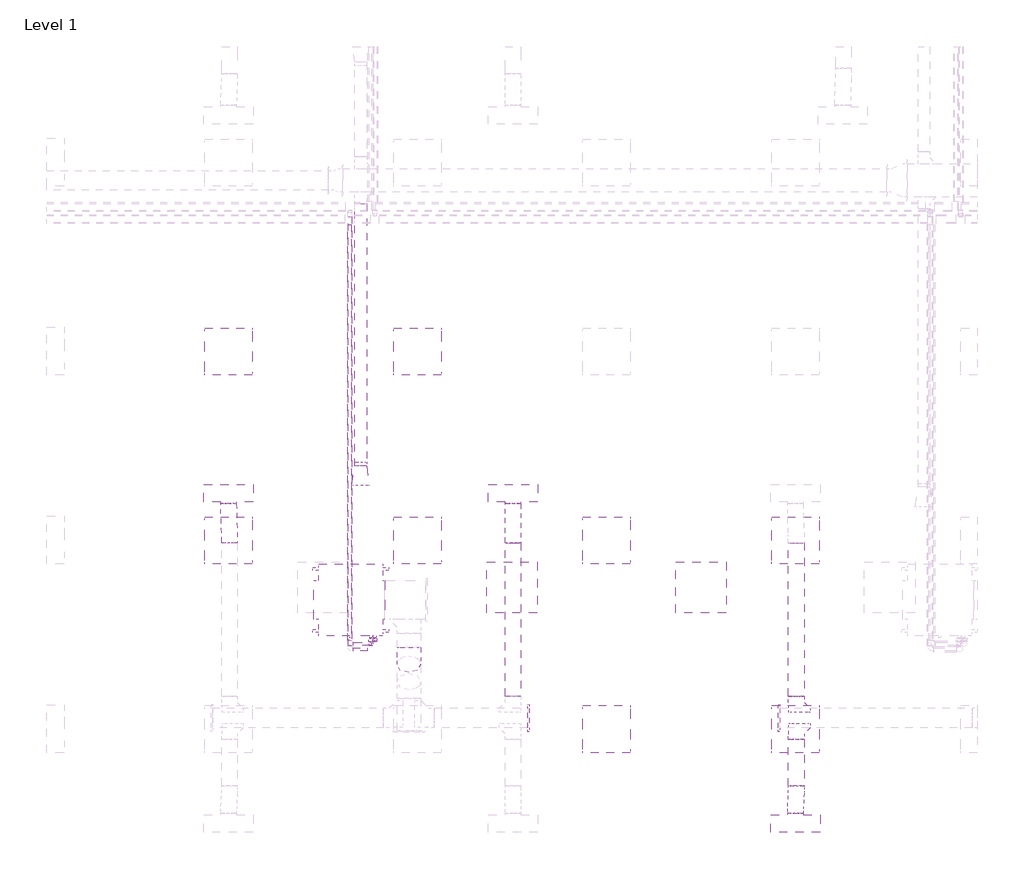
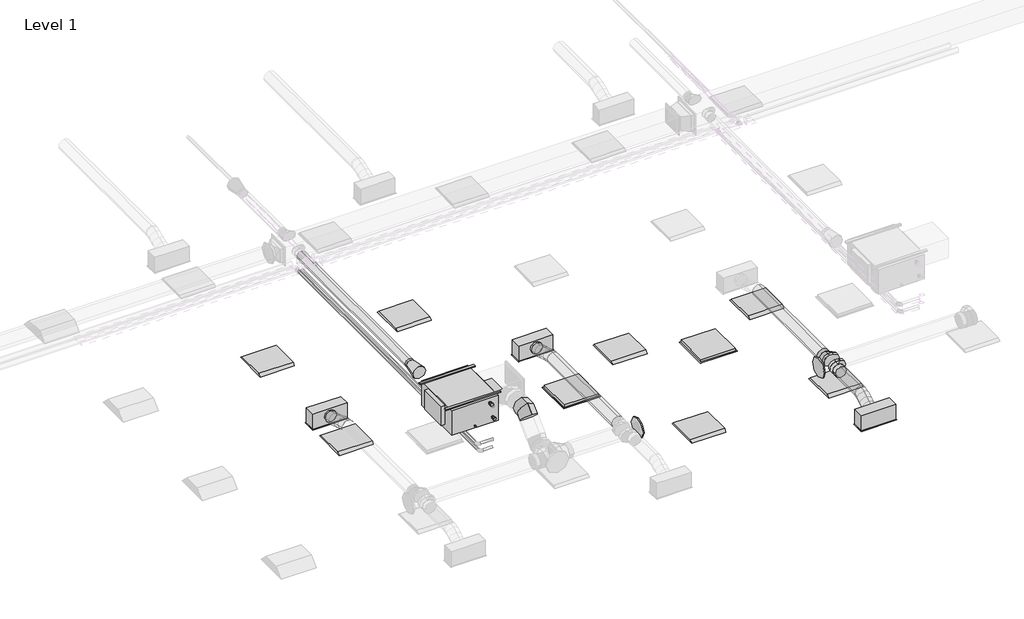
# One storey, part 7 of 30: 8 light fixtures, 7 duct segments, 6 air terminals, 6 pipe segments, 5 duct fittings, 2 pipe fittings, 1 proxy.
"""IFC4 building model written with IfcOpenShell, lengths in millimetres."""

from ifc_helpers import new_model, si_unit, point, frame, frame_2d, origin, place, context, project, spatial, circle_curve, ellipse_curve, trimmed, segment, composite_curve, outline, extrude, transform, mapped, element, save
from ifc_brep_helpers import plane_surface, cylinder_surface, advanced_brep
from components import air_terminal_0d1c431e, return_grille_rectangular_hosted_standard_7b12617c, supply_diffuser_with_plenum_linear_slot_hosted_8c379eed, fan_coil_unit_ceiling_ducted_chw_376_lps_05d42c19, dw144_round_blank_end_standard_9aa061e7, dw144_round_segmented_bend_slip_joint_standard_8b80c5ae, dw144_round_shoe_branch_slip_joint1_standard_2_15a2edd8, light_fixture_1c7c1157, light_fixture_b730b5ca, socket_reducing_threaded_gmi_standard_0a4076b8

model = new_model("IFC4")

# Units and contexts
model_context = context("Model", 3, world=origin())
ifc_project = project(units=[si_unit("LENGTHUNIT", "METRE", prefix="MILLI")], contexts=[model_context])

# Site, building, storey
site = spatial("IfcSite", under=ifc_project)
building = spatial("IfcBuilding", under=site)
storey = spatial("IfcBuildingStorey", under=building, Name="Level 1", Elevation=3900.0)

# Air terminals
placement = place(None, origin())
air_terminal_shape = air_terminal_0d1c431e(model_context)
element("IfcAirTerminal", 1, ObjectType="Supply_Bell_Mouth_Grille : Supply_Bell_Mouth_Grille", at=placement, inside=storey, context=model_context, shape_type="MappedRepresentation", body=[
    mapped(air_terminal_shape, transform((18039.0080407, 5510.2561435, 6946.3), x_axis=(0.0, -1.0, 0.0), y_axis=(1.0, 0.0, 0.0), z_axis=(0.0, 0.0, 1.0))),
])
return_grille_rectangular_hosted_standard_shape = return_grille_rectangular_hosted_standard_7b12617c(model_context)
element("IfcAirTerminal", 2, ObjectType="Return Grille - Rectangular - Hosted : Standard", at=placement, inside=storey, context=model_context, shape_type="MappedRepresentation", body=[
    mapped(return_grille_rectangular_hosted_standard_shape, transform((19962.2000027, 3963.2000004, 6700.0), x_axis=(1.0, 0.0, 0.0), y_axis=(0.0, -1.0, 0.0), z_axis=(0.0, 0.0, -1.0))),
])
element("IfcAirTerminal", 3, ObjectType="Return Grille - Rectangular - Hosted : Standard", at=placement, inside=storey, context=model_context, shape_type="MappedRepresentation", body=[
    mapped(return_grille_rectangular_hosted_standard_shape, transform((22362.2000027, 3963.2000004, 6700.0), x_axis=(0.0, -1.0, 0.0), y_axis=(-1.0, 0.0, 0.0), z_axis=(0.0, 0.0, -1.0))),
])
supply_diffuser_with_plenum_linear_slot_hosted_shape = supply_diffuser_with_plenum_linear_slot_hosted_8c379eed(model_context)
element("IfcAirTerminal", 4, ObjectType="Supply Diffuser with Plenum - Linear Slot - Hosted : 24\" x 8\"-200 In Inlet  4-Slot", at=placement, inside=storey, context=model_context, shape_type="MappedRepresentation", body=[
    mapped(supply_diffuser_with_plenum_linear_slot_hosted_shape, transform((23562.2000027, 963.2000004, 6700.0), x_axis=(1.0, 0.0, 0.0), y_axis=(0.0, -1.0, 0.0), z_axis=(0.0, 0.0, -1.0))),
])
element("IfcAirTerminal", 5, ObjectType="Supply Diffuser with Plenum - Linear Slot - Hosted : 24\" x 8\"-200 In Inlet  4-Slot", at=placement, inside=storey, context=model_context, shape_type="MappedRepresentation", body=[
    mapped(supply_diffuser_with_plenum_linear_slot_hosted_shape, transform((16362.2000027, 5163.2000004, 6700.0), x_axis=(-1.0, 0.0, 0.0), y_axis=(0.0, 1.0, 0.0), z_axis=(0.0, 0.0, -1.0))),
])
element("IfcAirTerminal", 6, ObjectType="Supply Diffuser with Plenum - Linear Slot - Hosted : 24\" x 8\"-200 In Inlet  4-Slot", at=placement, inside=storey, context=model_context, shape_type="MappedRepresentation", body=[
    mapped(supply_diffuser_with_plenum_linear_slot_hosted_shape, transform((19973.9000022, 5163.2000004, 6700.0), x_axis=(-1.0, 0.0, 0.0), y_axis=(0.0, 1.0, 0.0), z_axis=(0.0, 0.0, -1.0))),
])

# Proxy
fan_coil_unit_ceiling_ducted_chw_376_lps_shape = fan_coil_unit_ceiling_ducted_chw_376_lps_05d42c19(model_context)
element("IfcBuildingElementProxy", 7, Name="Fan Coil Unit - Ceiling Ducted - CHW : 376 LPS", ObjectType="Fan Coil Unit - Ceiling Ducted - CHW : 376 LPS", at=placement, inside=storey, context=model_context, shape_type="MappedRepresentation", body=[
    mapped(fan_coil_unit_ceiling_ducted_chw_376_lps_shape, transform((18321.2561025, 4263.2000004, 7122.3911538), x_axis=(0.0, -1.0, 0.0), y_axis=(1.0, 0.0, 0.0), z_axis=(0.0, 0.0, 1.0))),
])

# Duct fittings
dw144_round_blank_end_standard_shape = dw144_round_blank_end_standard_9aa061e7(model_context)
element("IfcDuctFitting", 8, ObjectType="DW144 Round Blank End : Standard", at=placement, inside=storey, context=model_context, shape_type="MappedRepresentation", body=[
    mapped(dw144_round_blank_end_standard_shape, transform((20161.4561025, 2306.5018192, 6972.2088531), x_axis=(1.0, 0.0, 0.0), y_axis=(0.0, 1.0, 0.0), z_axis=(0.0, 0.0, 1.0))),
])
element("IfcDuctFitting", 9, ObjectType="DW144 Round Blank End : Standard", at=placement, inside=storey, context=model_context, shape_type="MappedRepresentation", body=[
    mapped(dw144_round_blank_end_standard_shape, transform((23361.4561025, 2306.5018192, 6972.2088531), x_axis=(-1.0, 0.0, 0.0), y_axis=(0.0, -1.0, 0.0), z_axis=(0.0, 0.0, 1.0))),
])
dw144_round_segmented_bend_slip_joint_standard_shape = dw144_round_segmented_bend_slip_joint_standard_8b80c5ae(model_context)
element("IfcDuctFitting", 10, ObjectType="DW144 Round Segmented Bend - Slip Joint : Standard", at=placement, inside=storey, context=model_context, shape_type="MappedRepresentation", body=[
    mapped(dw144_round_segmented_bend_slip_joint_standard_shape, transform((18651.4561025, 3076.0000004, 7369.575), x_axis=(0.0, -1.0, 0.0), y_axis=(0.0, 0.0, 1.0), z_axis=(-1.0, 0.0, 0.0))),
])
dw144_round_shoe_branch_slip_joint1_standard_2_shape = dw144_round_shoe_branch_slip_joint1_standard_2_15a2edd8(model_context)
element("IfcDuctFitting", 11, ObjectType="DW144 Round Shoe Branch - Slip Joint1 : Standard 2", at=placement, inside=storey, context=model_context, shape_type="MappedRepresentation", body=[
    mapped(dw144_round_shoe_branch_slip_joint1_standard_2_shape, transform((23573.9000022, 2181.5018192, 6972.2088531), x_axis=(0.0, -1.0, 0.0), y_axis=(-1.0, 0.0, 0.0), z_axis=(0.0, 0.0, -1.0))),
])
element("IfcDuctFitting", 12, ObjectType="DW144 Round Shoe Branch - Slip Joint1 : Standard 2", at=placement, inside=storey, context=model_context, shape_type="MappedRepresentation", body=[
    mapped(dw144_round_shoe_branch_slip_joint1_standard_2_shape, transform((23573.9000022, 2431.5018192, 6972.2088531), x_axis=(0.0, 1.0, 0.0), y_axis=(-1.0, 0.0, 0.0), z_axis=(0.0, 0.0, 1.0))),
])

# Duct segments
element("IfcDuctSegment", 13, ObjectType="DW144 Segmented Bend / Shoe Branch", at=placement, inside=storey, context=model_context, shape_type="SweptSolid", body=[
    extrude(outline(composite_curve([segment(trimmed(circle_curve(frame_2d((6972.2088531, 19973.9000022)), 100.0), [point((6972.2088531, 20073.9000022))], [point((7072.2088531, 19973.9000022))], False, "CARTESIAN"), True, "CONTINUOUS"), segment(trimmed(circle_curve(frame_2d((6972.2088531, 19973.9000022)), 100.0), [point((7072.2088531, 19973.9000022))], [point((6972.2088531, 19873.9000022))], False, "CARTESIAN"), True, "CONTINUOUS"), segment(trimmed(circle_curve(frame_2d((6972.2088531, 19973.9000022)), 100.0), [point((6972.2088531, 19873.9000022))], [point((6872.2088531, 19973.9000022))], False, "CARTESIAN"), True, "CONTINUOUS"), segment(trimmed(circle_curve(frame_2d((6972.2088531, 19973.9000022)), 100.0), [point((6872.2088531, 19973.9000022))], [point((6972.2088531, 20073.9000022))], False, "CARTESIAN"), True, "CONTINUOUS")], self_intersect=False)), frame((0.0, 2581.5018192, 0.0), z_axis=(0.0, 1.0, 0.0), x_axis=(0.0, 0.0, 1.0)), (0.0, 0.0, 1.0), 1950.0),
])
element("IfcDuctSegment", 14, ObjectType="DW144 Segmented Bend / Shoe Branch", at=placement, inside=storey, context=model_context, shape_type="SweptSolid", body=[
    extrude(outline(composite_curve([segment(trimmed(circle_curve(frame_2d((6972.2088531, 23573.9000022)), 100.0), [point((6972.2088531, 23673.9000022))], [point((7072.2088531, 23573.9000022))], False, "CARTESIAN"), True, "CONTINUOUS"), segment(trimmed(circle_curve(frame_2d((6972.2088531, 23573.9000022)), 100.0), [point((7072.2088531, 23573.9000022))], [point((6972.2088531, 23473.9000022))], False, "CARTESIAN"), True, "CONTINUOUS"), segment(trimmed(circle_curve(frame_2d((6972.2088531, 23573.9000022)), 100.0), [point((6972.2088531, 23473.9000022))], [point((6872.2088531, 23573.9000022))], False, "CARTESIAN"), True, "CONTINUOUS"), segment(trimmed(circle_curve(frame_2d((6972.2088531, 23573.9000022)), 100.0), [point((6872.2088531, 23573.9000022))], [point((6972.2088531, 23673.9000022))], False, "CARTESIAN"), True, "CONTINUOUS")], self_intersect=False)), frame((0.0, 1441.5018192, 0.0), z_axis=(0.0, 1.0, 0.0), x_axis=(0.0, 0.0, 1.0)), (0.0, 0.0, 1.0), 590.0),
])
element("IfcDuctSegment", 15, ObjectType="DW144 Segmented Bend / Shoe Branch", at=placement, inside=storey, context=model_context, shape_type="SweptSolid", body=[
    extrude(outline(composite_curve([segment(trimmed(circle_curve(frame_2d((6972.2088531, 23573.9000022)), 100.0), [point((6972.2088531, 23673.9000022))], [point((7072.2088531, 23573.9000022))], False, "CARTESIAN"), True, "CONTINUOUS"), segment(trimmed(circle_curve(frame_2d((6972.2088531, 23573.9000022)), 100.0), [point((7072.2088531, 23573.9000022))], [point((6972.2088531, 23473.9000022))], False, "CARTESIAN"), True, "CONTINUOUS"), segment(trimmed(circle_curve(frame_2d((6972.2088531, 23573.9000022)), 100.0), [point((6972.2088531, 23473.9000022))], [point((6872.2088531, 23573.9000022))], False, "CARTESIAN"), True, "CONTINUOUS"), segment(trimmed(circle_curve(frame_2d((6972.2088531, 23573.9000022)), 100.0), [point((6872.2088531, 23573.9000022))], [point((6972.2088531, 23673.9000022))], False, "CARTESIAN"), True, "CONTINUOUS")], self_intersect=False)), frame((0.0, 2581.5018192, 0.0), z_axis=(0.0, 1.0, 0.0), x_axis=(0.0, 0.0, 1.0)), (0.0, 0.0, 1.0), 1950.0),
])
element("IfcDuctSegment", 16, ObjectType="DW144 Segmented Bend / Shoe Branch", at=placement, inside=storey, context=model_context, shape_type="SweptSolid", body=[
    extrude(outline(composite_curve([segment(trimmed(circle_curve(frame_2d((6946.3, 18039.0080407)), 75.0), [point((6946.3, 17964.0080407))], [point((6871.3, 18039.0080407))], False, "CARTESIAN"), True, "CONTINUOUS"), segment(trimmed(circle_curve(frame_2d((6946.3, 18039.0080407)), 75.0), [point((6871.3, 18039.0080407))], [point((6946.3, 18114.0080407))], False, "CARTESIAN"), True, "CONTINUOUS"), segment(trimmed(circle_curve(frame_2d((6946.3, 18039.0080407)), 75.0), [point((6946.3, 18114.0080407))], [point((7021.3, 18039.0080407))], False, "CARTESIAN"), True, "CONTINUOUS"), segment(trimmed(circle_curve(frame_2d((6946.3, 18039.0080407)), 75.0), [point((7021.3, 18039.0080407))], [point((6946.3, 17964.0080407))], False, "CARTESIAN"), True, "CONTINUOUS")], self_intersect=False)), frame((0.0, 5510.2561435, 0.0), z_axis=(0.0, 1.0, 0.0), x_axis=(0.0, 0.0, 1.0)), (0.0, 0.0, 1.0), 3329.1601689),
])
element("IfcDuctSegment", 17, ObjectType="Flex - Round", at=placement, inside=storey, context=model_context, shape_type="AdvancedBrep", body=[
    advanced_brep(
    [(16273.9000022, 4531.5018192, 6972.2088531), (16373.9000022, 4531.5018192, 6872.2088531), (16473.9000022, 4531.5018192, 6972.2088531), (16373.9000022, 4531.5018192, 7072.2088531), (16273.9000022, 4545.0398748, 6972.2088531), (16373.9000022, 4537.729612, 6872.2088531), (16473.9000022, 4546.6519942, 6972.2088531), (16373.9000022, 4553.962257, 7072.2088531), (16262.2000027, 5034.3000004, 6854.4), (16362.2000027, 5034.3000004, 6954.4), (16462.2000027, 5034.3000004, 6854.4), (16362.2000027, 5034.3000004, 6754.4), (16272.0969471, 4656.1396088, 6954.0536514), (16372.3243089, 4634.8198875, 6856.3429867), (16472.0468075, 4660.8412095, 6953.5487883), (16371.8194457, 4682.1609309, 7051.2594529), (16268.0984043, 4779.8283707, 6913.7917909), (16368.5373668, 4751.9631047, 6818.2117629), (16468.0016006, 4785.9734489, 6912.8170622), (16367.5626381, 4813.8387149, 7008.3970903), (16264.0531974, 4904.9606101, 6873.0600649), (16364.2805591, 4883.6408888, 6775.3494002), (16464.0030578, 4909.6622108, 6872.5552017), (16363.775696, 4930.9819322, 6970.2658664), (16262.2000027, 5019.1498254, 6854.4), (16362.2000027, 5011.8395627, 6754.4), (16462.2000027, 5020.7619448, 6854.4), (16362.2000027, 5028.0722076, 6954.4)],
    [
        (0, 1, circle_curve(frame((16373.9000022, 4531.5018192, 6972.2088531), z_axis=(0.0, -1.0, 0.0), x_axis=(-1.0, 0.0, 0.0)), 100.0)),
        (1, 2, circle_curve(frame((16373.9000022, 4531.5018192, 6972.2088531), z_axis=(0.0, -1.0, 0.0), x_axis=(-1.0, 0.0, 0.0)), 100.0)),
        (2, 3, circle_curve(frame((16373.9000022, 4531.5018192, 6972.2088531), z_axis=(0.0, -1.0, 0.0), x_axis=(-1.0, 0.0, 0.0)), 100.0)),
        (3, 0, circle_curve(frame((16373.9000022, 4531.5018192, 6972.2088531), z_axis=(0.0, -1.0, 0.0), x_axis=(-1.0, 0.0, 0.0)), 100.0)),
        (0, 4),
        (4, 5, ellipse_curve(frame((16373.9000022, 4545.8459345, 6972.2088531), z_axis=(0.008033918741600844, -0.9966902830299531, 0.08089459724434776), x_axis=(-0.09850014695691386, -0.08129255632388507, -0.9918110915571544)), 100.3320708, 100.0)),
        (5, 1),
        (5, 6, ellipse_curve(frame((16373.9000022, 4545.8459345, 6972.2088531), z_axis=(0.008033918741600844, -0.9966902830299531, 0.08089459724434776), x_axis=(-0.09850014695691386, -0.08129255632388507, -0.9918110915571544)), 100.3320708, 100.0)),
        (6, 2),
        (6, 7, ellipse_curve(frame((16373.9000022, 4545.8459345, 6972.2088531), z_axis=(0.008033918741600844, -0.9966902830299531, 0.08089459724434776), x_axis=(-0.09850014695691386, -0.08129255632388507, -0.9918110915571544)), 100.3320708, 100.0)),
        (7, 3),
        (7, 4, ellipse_curve(frame((16373.9000022, 4545.8459345, 6972.2088531), z_axis=(0.008033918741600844, -0.9966902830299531, 0.08089459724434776), x_axis=(-0.09850014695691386, -0.08129255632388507, -0.9918110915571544)), 100.3320708, 100.0)),
        (8, 9, circle_curve(frame((16362.2000027, 5034.3000004, 6854.4), z_axis=(0.0, 1.0, 0.0), x_axis=(-1.0, 0.0, 0.0)), 100.0)),
        (9, 10, circle_curve(frame((16362.2000027, 5034.3000004, 6854.4), z_axis=(0.0, 1.0, 0.0), x_axis=(-1.0, 0.0, 0.0)), 100.0)),
        (10, 11, circle_curve(frame((16362.2000027, 5034.3000004, 6854.4), z_axis=(0.0, 1.0, 0.0), x_axis=(-1.0, 0.0, 0.0)), 100.0)),
        (11, 8, circle_curve(frame((16362.2000027, 5034.3000004, 6854.4), z_axis=(0.0, 1.0, 0.0), x_axis=(-1.0, 0.0, 0.0)), 100.0)),
        (4, 12),
        (12, 13, ellipse_curve(frame((16372.0718773, 4658.4904092, 6953.8012198), z_axis=(0.023438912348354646, -0.9714680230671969, 0.2360095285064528), x_axis=(-0.09600750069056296, -0.23717057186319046, -0.9667123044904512)), 100.2947714, 100.0)),
        (13, 5),
        (13, 14, ellipse_curve(frame((16372.0718773, 4658.4904092, 6953.8012198), z_axis=(0.023438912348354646, -0.9714680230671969, 0.2360095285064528), x_axis=(-0.09600750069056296, -0.23717057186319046, -0.9667123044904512)), 100.2947714, 100.0)),
        (14, 6),
        (14, 15, ellipse_curve(frame((16372.0718773, 4658.4904092, 6953.8012198), z_axis=(0.023438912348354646, -0.9714680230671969, 0.2360095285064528), x_axis=(-0.09600750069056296, -0.23717057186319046, -0.9667123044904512)), 100.2947714, 100.0)),
        (15, 7),
        (15, 12, ellipse_curve(frame((16372.0718773, 4658.4904092, 6953.8012198), z_axis=(0.023438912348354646, -0.9714680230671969, 0.2360095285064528), x_axis=(-0.09600750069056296, -0.23717057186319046, -0.9667123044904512)), 100.2947714, 100.0)),
        (12, 16),
        (16, 17, circle_curve(frame((16368.0500024, 4782.9009098, 6913.3044266), z_axis=(0.03072539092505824, -0.9504426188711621, 0.30937805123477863), x_axis=(-0.999515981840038, -0.030725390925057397, 0.004873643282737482)), 100.0)),
        (17, 13),
        (17, 18, circle_curve(frame((16368.0500024, 4782.9009098, 6913.3044266), z_axis=(0.03072539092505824, -0.9504426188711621, 0.30937805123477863), x_axis=(-0.999515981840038, -0.030725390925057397, 0.004873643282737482)), 100.0)),
        (18, 14),
        (18, 19, circle_curve(frame((16368.0500024, 4782.9009098, 6913.3044266), z_axis=(0.03072539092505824, -0.9504426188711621, 0.30937805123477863), x_axis=(-0.999515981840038, -0.030725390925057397, 0.004873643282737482)), 100.0)),
        (19, 15),
        (19, 16, circle_curve(frame((16368.0500024, 4782.9009098, 6913.3044266), z_axis=(0.03072539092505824, -0.9504426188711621, 0.30937805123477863), x_axis=(-0.999515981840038, -0.030725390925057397, 0.004873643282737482)), 100.0)),
        (16, 20),
        (20, 21, ellipse_curve(frame((16364.0281276, 4907.3114105, 6872.8076333), z_axis=(0.023438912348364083, -0.9714680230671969, 0.23600952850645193), x_axis=(0.0960075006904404, 0.23717057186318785, 0.966712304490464)), 100.2947714, 100.0)),
        (21, 17),
        (21, 22, ellipse_curve(frame((16364.0281276, 4907.3114105, 6872.8076333), z_axis=(0.023438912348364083, -0.9714680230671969, 0.23600952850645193), x_axis=(0.0960075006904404, 0.23717057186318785, 0.966712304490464)), 100.2947714, 100.0)),
        (22, 18),
        (22, 23, ellipse_curve(frame((16364.0281276, 4907.3114105, 6872.8076333), z_axis=(0.023438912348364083, -0.9714680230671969, 0.23600952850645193), x_axis=(0.0960075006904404, 0.23717057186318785, 0.966712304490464)), 100.2947714, 100.0)),
        (23, 19),
        (23, 20, ellipse_curve(frame((16364.0281276, 4907.3114105, 6872.8076333), z_axis=(0.023438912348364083, -0.9714680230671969, 0.23600952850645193), x_axis=(0.0960075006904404, 0.23717057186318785, 0.966712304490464)), 100.2947714, 100.0)),
        (20, 24),
        (24, 25, ellipse_curve(frame((16362.2000027, 5019.9558851, 6854.4), z_axis=(0.008033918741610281, -0.9966902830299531, 0.08089459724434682), x_axis=(0.09850014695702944, 0.0812925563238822, 0.9918110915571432)), 100.3320708, 100.0)),
        (25, 21),
        (25, 26, ellipse_curve(frame((16362.2000027, 5019.9558851, 6854.4), z_axis=(0.008033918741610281, -0.9966902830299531, 0.08089459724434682), x_axis=(0.09850014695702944, 0.0812925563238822, 0.9918110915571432)), 100.3320708, 100.0)),
        (26, 22),
        (26, 27, ellipse_curve(frame((16362.2000027, 5019.9558851, 6854.4), z_axis=(0.008033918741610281, -0.9966902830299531, 0.08089459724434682), x_axis=(0.09850014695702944, 0.0812925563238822, 0.9918110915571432)), 100.3320708, 100.0)),
        (27, 23),
        (27, 24, ellipse_curve(frame((16362.2000027, 5019.9558851, 6854.4), z_axis=(0.008033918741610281, -0.9966902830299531, 0.08089459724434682), x_axis=(0.09850014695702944, 0.0812925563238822, 0.9918110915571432)), 100.3320708, 100.0)),
        (24, 8),
        (11, 25),
        (10, 26),
        (9, 27),
    ],
    [
        plane_surface(frame((16273.9000022, 4531.5018192, 6972.2088531), z_axis=(0.0, -1.0, 0.0), x_axis=(0.0, 0.0, 1.0))),
        cylinder_surface(frame((16373.9000022, 4531.5018192, 6972.2088531), z_axis=(0.0, -1.0, 0.0), x_axis=(-1.0, 0.0, 0.0)), 100.0),
        plane_surface(frame((16262.2000027, 5034.3000004, 6854.4), z_axis=(0.0, 1.0, 0.0), x_axis=(0.0, 0.0, 1.0))),
        cylinder_surface(frame((16373.9000022, 4545.8459345, 6972.2088531), z_axis=(0.01601465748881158, -0.9867830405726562, 0.16125371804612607), x_axis=(-0.9998709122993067, -0.01601465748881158, 0.0012998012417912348)), 100.0),
        cylinder_surface(frame((16372.0718773, 4658.4904092, 6953.8012198), z_axis=(0.03072539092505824, -0.9504426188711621, 0.30937805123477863), x_axis=(-0.999515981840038, -0.030725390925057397, 0.004873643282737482)), 100.0),
        cylinder_surface(frame((16368.0500024, 4782.9009098, 6913.3044266), z_axis=(0.030725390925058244, -0.9504426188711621, 0.30937805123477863), x_axis=(-0.999515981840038, -0.0307253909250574, 0.0048736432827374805)), 100.0),
        cylinder_surface(frame((16364.0281276, 4907.3114105, 6872.8076333), z_axis=(0.016014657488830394, -0.9867830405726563, 0.16125371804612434), x_axis=(-0.9998709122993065, -0.016014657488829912, 0.0012998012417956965)), 100.0),
        cylinder_surface(frame((16362.2000027, 5019.9558851, 6854.4), z_axis=(0.0, -1.0, 0.0), x_axis=(-1.0, 0.0, 0.0)), 100.0),
    ],
    [
        (0, [[1, 2, 3, 4]]),
        (1, [[-1, 5, 6, 7]]),
        (1, [[-2, -7, 8, 9]]),
        (1, [[-3, -9, 10, 11]]),
        (1, [[-4, -11, 12, -5]]),
        (2, [[13, 14, 15, 16]]),
        (3, [[-6, 17, 18, 19]]),
        (3, [[-8, -19, 20, 21]]),
        (3, [[-10, -21, 22, 23]]),
        (3, [[-12, -23, 24, -17]]),
        (4, [[-18, 25, 26, 27]]),
        (4, [[-20, -27, 28, 29]]),
        (4, [[-22, -29, 30, 31]]),
        (4, [[-24, -31, 32, -25]]),
        (5, [[-26, 33, 34, 35]]),
        (5, [[-28, -35, 36, 37]]),
        (5, [[-30, -37, 38, 39]]),
        (5, [[-32, -39, 40, -33]]),
        (6, [[-34, 41, 42, 43]]),
        (6, [[-36, -43, 44, 45]]),
        (6, [[-38, -45, 46, 47]]),
        (6, [[-40, -47, 48, -41]]),
        (7, [[-42, 49, -16, 50]]),
        (7, [[-44, -50, -15, 51]]),
        (7, [[-46, -51, -14, 52]]),
        (7, [[-48, -52, -13, -49]]),
    ],
),
])
element("IfcDuctSegment", 18, ObjectType="Flex - Round", at=placement, inside=storey, context=model_context, shape_type="AdvancedBrep", body=[
    advanced_brep(
    [(19873.9000022, 4531.5018192, 6972.2088531), (19973.9000022, 4531.5018192, 6872.2088531), (20073.9000022, 4531.5018192, 6972.2088531), (19973.9000022, 4531.5018192, 7072.2088531), (19873.9000022, 4545.8487649, 6972.2088531), (19973.9000022, 4537.7308336, 6872.2088531), (20073.9000022, 4545.8487649, 6972.2088531), (19973.9000022, 4553.9666963, 7072.2088531), (19873.9000022, 5034.3000004, 6854.4), (19973.9000022, 5034.3000004, 6954.4), (20073.9000022, 5034.3000004, 6854.4), (19973.9000022, 5034.3000004, 6754.4), (19873.9000022, 4658.4779853, 6953.8012198), (19973.9000022, 4634.8007072, 6856.3441723), (20073.9000022, 4658.4779853, 6953.8012198), (19973.9000022, 4682.1552634, 7051.2582674), (19873.9000022, 4782.9009098, 6913.3044266), (19973.9000022, 4751.9512855, 6818.21436), (20073.9000022, 4782.9009098, 6913.3044266), (19973.9000022, 4813.8505341, 7008.3944931), (19873.9000022, 4907.3238344, 6872.8076333), (19973.9000022, 4883.6465563, 6775.3505857), (20073.9000022, 4907.3238344, 6872.8076333), (19973.9000022, 4931.0011125, 6970.2646809), (19873.9000022, 5019.9530547, 6854.4), (19973.9000022, 5011.8351234, 6754.4), (20073.9000022, 5019.9530547, 6854.4), (19973.9000022, 5028.070986, 6954.4)],
    [
        (0, 1, circle_curve(frame((19973.9000022, 4531.5018192, 6972.2088531), z_axis=(0.0, -1.0, 0.0), x_axis=(-1.0, 0.0, 0.0)), 100.0)),
        (1, 2, circle_curve(frame((19973.9000022, 4531.5018192, 6972.2088531), z_axis=(0.0, -1.0, 0.0), x_axis=(-1.0, 0.0, 0.0)), 100.0)),
        (2, 3, circle_curve(frame((19973.9000022, 4531.5018192, 6972.2088531), z_axis=(0.0, -1.0, 0.0), x_axis=(-1.0, 0.0, 0.0)), 100.0)),
        (3, 0, circle_curve(frame((19973.9000022, 4531.5018192, 6972.2088531), z_axis=(0.0, -1.0, 0.0), x_axis=(-1.0, 0.0, 0.0)), 100.0)),
        (0, 4),
        (4, 5, ellipse_curve(frame((19973.9000022, 4545.8487649, 6972.2088531), z_axis=(0.0, -0.9967211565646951, 0.08091313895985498), x_axis=(0.0, -0.08091313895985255, -0.9967211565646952)), 100.328963, 100.0)),
        (5, 1),
        (5, 6, ellipse_curve(frame((19973.9000022, 4545.8487649, 6972.2088531), z_axis=(0.0, -0.9967211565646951, 0.08091313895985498), x_axis=(0.0, -0.08091313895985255, -0.9967211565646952)), 100.328963, 100.0)),
        (6, 2),
        (6, 7, ellipse_curve(frame((19973.9000022, 4545.8487649, 6972.2088531), z_axis=(0.0, -0.9967211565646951, 0.08091313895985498), x_axis=(0.0, -0.08091313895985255, -0.9967211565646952)), 100.328963, 100.0)),
        (7, 3),
        (7, 4, ellipse_curve(frame((19973.9000022, 4545.8487649, 6972.2088531), z_axis=(0.0, -0.9967211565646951, 0.08091313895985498), x_axis=(0.0, -0.08091313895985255, -0.9967211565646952)), 100.328963, 100.0)),
        (8, 9, circle_curve(frame((19973.9000022, 5034.3000004, 6854.4), z_axis=(0.0, 1.0, 0.0), x_axis=(-1.0, 0.0, 0.0)), 100.0)),
        (9, 10, circle_curve(frame((19973.9000022, 5034.3000004, 6854.4), z_axis=(0.0, 1.0, 0.0), x_axis=(-1.0, 0.0, 0.0)), 100.0)),
        (10, 11, circle_curve(frame((19973.9000022, 5034.3000004, 6854.4), z_axis=(0.0, 1.0, 0.0), x_axis=(-1.0, 0.0, 0.0)), 100.0)),
        (11, 8, circle_curve(frame((19973.9000022, 5034.3000004, 6854.4), z_axis=(0.0, 1.0, 0.0), x_axis=(-1.0, 0.0, 0.0)), 100.0)),
        (4, 12),
        (12, 13, ellipse_curve(frame((19973.9000022, 4658.4779853, 6953.8012198), z_axis=(0.0, -0.9717328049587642, 0.23608336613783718), x_axis=(0.0, -0.23608336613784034, -0.9717328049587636)), 100.2920217, 100.0)),
        (13, 5),
        (13, 14, ellipse_curve(frame((19973.9000022, 4658.4779853, 6953.8012198), z_axis=(0.0, -0.9717328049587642, 0.23608336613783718), x_axis=(0.0, -0.23608336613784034, -0.9717328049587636)), 100.2920217, 100.0)),
        (14, 6),
        (14, 15, ellipse_curve(frame((19973.9000022, 4658.4779853, 6953.8012198), z_axis=(0.0, -0.9717328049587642, 0.23608336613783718), x_axis=(0.0, -0.23608336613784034, -0.9717328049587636)), 100.2920217, 100.0)),
        (15, 7),
        (15, 12, ellipse_curve(frame((19973.9000022, 4658.4779853, 6953.8012198), z_axis=(0.0, -0.9717328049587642, 0.23608336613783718), x_axis=(0.0, -0.23608336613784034, -0.9717328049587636)), 100.2920217, 100.0)),
        (12, 16),
        (16, 17, circle_curve(frame((19973.9000022, 4782.9009098, 6913.3044266), z_axis=(0.0, -0.9509006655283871, 0.3094962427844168), x_axis=(-1.0, 0.0, 0.0)), 100.0)),
        (17, 13),
        (17, 18, circle_curve(frame((19973.9000022, 4782.9009098, 6913.3044266), z_axis=(0.0, -0.9509006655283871, 0.3094962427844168), x_axis=(-1.0, 0.0, 0.0)), 100.0)),
        (18, 14),
        (18, 19, circle_curve(frame((19973.9000022, 4782.9009098, 6913.3044266), z_axis=(0.0, -0.9509006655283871, 0.3094962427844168), x_axis=(-1.0, 0.0, 0.0)), 100.0)),
        (19, 15),
        (19, 16, circle_curve(frame((19973.9000022, 4782.9009098, 6913.3044266), z_axis=(0.0, -0.9509006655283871, 0.3094962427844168), x_axis=(-1.0, 0.0, 0.0)), 100.0)),
        (16, 20),
        (20, 21, ellipse_curve(frame((19973.9000022, 4907.3238344, 6872.8076333), z_axis=(0.0, -0.9717328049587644, 0.23608336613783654), x_axis=(0.0, 0.2360833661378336, 0.9717328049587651)), 100.2920217, 100.0)),
        (21, 17),
        (21, 22, ellipse_curve(frame((19973.9000022, 4907.3238344, 6872.8076333), z_axis=(0.0, -0.9717328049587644, 0.23608336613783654), x_axis=(0.0, 0.2360833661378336, 0.9717328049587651)), 100.2920217, 100.0)),
        (22, 18),
        (22, 23, ellipse_curve(frame((19973.9000022, 4907.3238344, 6872.8076333), z_axis=(0.0, -0.9717328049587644, 0.23608336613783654), x_axis=(0.0, 0.2360833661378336, 0.9717328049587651)), 100.2920217, 100.0)),
        (23, 19),
        (23, 20, ellipse_curve(frame((19973.9000022, 4907.3238344, 6872.8076333), z_axis=(0.0, -0.9717328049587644, 0.23608336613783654), x_axis=(0.0, 0.2360833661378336, 0.9717328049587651)), 100.2920217, 100.0)),
        (20, 24),
        (24, 25, ellipse_curve(frame((19973.9000022, 5019.9530547, 6854.4), z_axis=(0.0, -0.9967211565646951, 0.08091313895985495), x_axis=(0.0, 0.08091313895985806, 0.9967211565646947)), 100.328963, 100.0)),
        (25, 21),
        (25, 26, ellipse_curve(frame((19973.9000022, 5019.9530547, 6854.4), z_axis=(0.0, -0.9967211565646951, 0.08091313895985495), x_axis=(0.0, 0.08091313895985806, 0.9967211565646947)), 100.328963, 100.0)),
        (26, 22),
        (26, 27, ellipse_curve(frame((19973.9000022, 5019.9530547, 6854.4), z_axis=(0.0, -0.9967211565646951, 0.08091313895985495), x_axis=(0.0, 0.08091313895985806, 0.9967211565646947)), 100.328963, 100.0)),
        (27, 23),
        (27, 24, ellipse_curve(frame((19973.9000022, 5019.9530547, 6854.4), z_axis=(0.0, -0.9967211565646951, 0.08091313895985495), x_axis=(0.0, 0.08091313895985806, 0.9967211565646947)), 100.328963, 100.0)),
        (24, 8),
        (11, 25),
        (10, 26),
        (9, 27),
    ],
    [
        plane_surface(frame((19873.9000022, 4531.5018192, 6972.2088531), z_axis=(0.0, -1.0, 0.0), x_axis=(0.0, 0.0, 1.0))),
        cylinder_surface(frame((19973.9000022, 4531.5018192, 6972.2088531), z_axis=(0.0, -1.0, 0.0), x_axis=(-1.0, 0.0, 0.0)), 100.0),
        plane_surface(frame((19873.9000022, 5034.3000004, 6854.4), z_axis=(0.0, 1.0, 0.0), x_axis=(0.0, 0.0, 1.0))),
        cylinder_surface(frame((19973.9000022, 4545.8487649, 6972.2088531), z_axis=(0.0, -0.9869061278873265, 0.16129567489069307), x_axis=(-1.0, 0.0, 0.0)), 100.0),
        cylinder_surface(frame((19973.9000022, 4658.4779853, 6953.8012198), z_axis=(0.0, -0.9509006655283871, 0.3094962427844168), x_axis=(-1.0, 0.0, 0.0)), 100.0),
        cylinder_surface(frame((19973.9000022, 4782.9009098, 6913.3044266), z_axis=(0.0, -0.9509006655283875, 0.30949624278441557), x_axis=(-1.0, 0.0, 0.0)), 100.0),
        cylinder_surface(frame((19973.9000022, 4907.3238344, 6872.8076333), z_axis=(0.0, -0.9869061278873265, 0.16129567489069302), x_axis=(-1.0, 0.0, 0.0)), 100.0),
        cylinder_surface(frame((19973.9000022, 5019.9530547, 6854.4), z_axis=(0.0, -1.0, 0.0), x_axis=(-1.0, 0.0, 0.0)), 100.0),
    ],
    [
        (0, [[1, 2, 3, 4]]),
        (1, [[-1, 5, 6, 7]]),
        (1, [[-2, -7, 8, 9]]),
        (1, [[-3, -9, 10, 11]]),
        (1, [[-4, -11, 12, -5]]),
        (2, [[13, 14, 15, 16]]),
        (3, [[-6, 17, 18, 19]]),
        (3, [[-8, -19, 20, 21]]),
        (3, [[-10, -21, 22, 23]]),
        (3, [[-12, -23, 24, -17]]),
        (4, [[-18, 25, 26, 27]]),
        (4, [[-20, -27, 28, 29]]),
        (4, [[-22, -29, 30, 31]]),
        (4, [[-24, -31, 32, -25]]),
        (5, [[-26, 33, 34, 35]]),
        (5, [[-28, -35, 36, 37]]),
        (5, [[-30, -37, 38, 39]]),
        (5, [[-32, -39, 40, -33]]),
        (6, [[-34, 41, 42, 43]]),
        (6, [[-36, -43, 44, 45]]),
        (6, [[-38, -45, 46, 47]]),
        (6, [[-40, -47, 48, -41]]),
        (7, [[-42, 49, -16, 50]]),
        (7, [[-44, -50, -15, 51]]),
        (7, [[-46, -51, -14, 52]]),
        (7, [[-48, -52, -13, -49]]),
    ],
),
])
element("IfcDuctSegment", 19, ObjectType="Flex - Round", at=placement, inside=storey, context=model_context, shape_type="AdvancedBrep", body=[
    advanced_brep(
    [(23673.9000022, 1441.5018192, 6972.2088531), (23573.9000022, 1441.5018192, 6872.2088531), (23473.9000022, 1441.5018192, 6972.2088531), (23573.9000022, 1441.5018192, 7072.2088531), (23673.9000022, 1419.9886644, 6972.2088531), (23573.9000022, 1434.4041273, 6872.2088531), (23473.9000022, 1422.5932881, 6972.2088531), (23573.9000022, 1408.1778252, 7072.2088531), (23662.2000027, 1092.1000004, 6854.4), (23562.2000027, 1092.1000004, 6954.4), (23462.2000027, 1092.1000004, 6854.4), (23562.2000027, 1092.1000004, 6754.4), (23672.0154345, 1348.8904029, 6953.2328893), (23572.6402079, 1386.8764181, 6859.5238159), (23472.1283201, 1355.7538157, 6954.3695504), (23571.5035467, 1317.7678004, 7048.0786237), (23667.9552415, 1262.5544078, 6912.3502664), (23569.0041626, 1309.5595036, 6822.9119919), (23468.1447633, 1271.0474118, 6914.2585867), (23567.0958423, 1224.0423161, 7003.6968612), (23663.9716847, 1177.8480039, 6872.2393027), (23564.5964582, 1215.8340192, 6778.5302294), (23464.0845704, 1184.7114168, 6873.3759639), (23563.459797, 1146.7254015, 6967.0850372), (23662.2000027, 1111.0085316, 6854.4), (23562.2000027, 1125.4239944, 6754.4), (23462.2000027, 1113.6131552, 6854.4), (23562.2000027, 1099.1976924, 6954.4)],
    [
        (0, 1, circle_curve(frame((23573.9000022, 1441.5018192, 6972.2088531), z_axis=(0.0, 1.0, 0.0), x_axis=(1.0, 0.0, 0.0)), 100.0)),
        (1, 2, circle_curve(frame((23573.9000022, 1441.5018192, 6972.2088531), z_axis=(0.0, 1.0, 0.0), x_axis=(1.0, 0.0, 0.0)), 100.0)),
        (2, 3, circle_curve(frame((23573.9000022, 1441.5018192, 6972.2088531), z_axis=(0.0, 1.0, 0.0), x_axis=(1.0, 0.0, 0.0)), 100.0)),
        (3, 0, circle_curve(frame((23573.9000022, 1441.5018192, 6972.2088531), z_axis=(0.0, 1.0, 0.0), x_axis=(1.0, 0.0, 0.0)), 100.0)),
        (0, 4),
        (4, 5, ellipse_curve(frame((23573.9000022, 1421.2909763, 6972.2088531), z_axis=(0.012911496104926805, 0.991428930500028, 0.13000757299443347), x_axis=(-0.0979801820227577, 0.13064714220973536, -0.986575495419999)), 100.8645168, 100.0)),
        (5, 1),
        (5, 6, ellipse_curve(frame((23573.9000022, 1421.2909763, 6972.2088531), z_axis=(0.012911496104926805, 0.991428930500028, 0.13000757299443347), x_axis=(-0.0979801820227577, 0.13064714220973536, -0.986575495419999)), 100.8645168, 100.0)),
        (6, 2),
        (6, 7, ellipse_curve(frame((23573.9000022, 1421.2909763, 6972.2088531), z_axis=(0.012911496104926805, 0.991428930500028, 0.13000757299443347), x_axis=(-0.0979801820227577, 0.13064714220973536, -0.986575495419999)), 100.8645168, 100.0)),
        (7, 3),
        (7, 4, ellipse_curve(frame((23573.9000022, 1421.2909763, 6972.2088531), z_axis=(0.012911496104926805, 0.991428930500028, 0.13000757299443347), x_axis=(-0.0979801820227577, 0.13064714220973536, -0.986575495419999)), 100.8645168, 100.0)),
        (8, 9, circle_curve(frame((23562.2000027, 1092.1000004, 6854.4), z_axis=(0.0, -1.0, 0.0), x_axis=(1.0, 0.0, 0.0)), 100.0)),
        (9, 10, circle_curve(frame((23562.2000027, 1092.1000004, 6854.4), z_axis=(0.0, -1.0, 0.0), x_axis=(1.0, 0.0, 0.0)), 100.0)),
        (10, 11, circle_curve(frame((23562.2000027, 1092.1000004, 6854.4), z_axis=(0.0, -1.0, 0.0), x_axis=(1.0, 0.0, 0.0)), 100.0)),
        (11, 8, circle_curve(frame((23562.2000027, 1092.1000004, 6854.4), z_axis=(0.0, -1.0, 0.0), x_axis=(1.0, 0.0, 0.0)), 100.0)),
        (4, 12),
        (12, 13, ellipse_curve(frame((23572.0718773, 1352.3221093, 6953.8012198), z_axis=(0.03417490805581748, 0.9383065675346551, 0.34411169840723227), x_axis=(-0.09273024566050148, 0.34580454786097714, -0.9337131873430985)), 100.4159667, 100.0)),
        (13, 5),
        (13, 14, ellipse_curve(frame((23572.0718773, 1352.3221093, 6953.8012198), z_axis=(0.03417490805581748, 0.9383065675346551, 0.34411169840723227), x_axis=(-0.09273024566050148, 0.34580454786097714, -0.9337131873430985)), 100.4159667, 100.0)),
        (14, 6),
        (14, 15, ellipse_curve(frame((23572.0718773, 1352.3221093, 6953.8012198), z_axis=(0.03417490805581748, 0.9383065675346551, 0.34411169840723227), x_axis=(-0.09273024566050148, 0.34580454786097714, -0.9337131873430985)), 100.4159667, 100.0)),
        (15, 7),
        (15, 12, ellipse_curve(frame((23572.0718773, 1352.3221093, 6953.8012198), z_axis=(0.03417490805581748, 0.9383065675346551, 0.34411169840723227), x_axis=(-0.09273024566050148, 0.34580454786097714, -0.9337131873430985)), 100.4159667, 100.0)),
        (12, 16),
        (16, 17, circle_curve(frame((23568.0500024, 1266.8009098, 6913.3044266), z_axis=(0.042465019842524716, 0.9029767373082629, 0.42758593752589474), x_axis=(0.9990523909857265, -0.042465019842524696, -0.009541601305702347)), 100.0)),
        (17, 13),
        (17, 18, circle_curve(frame((23568.0500024, 1266.8009098, 6913.3044266), z_axis=(0.042465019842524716, 0.9029767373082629, 0.42758593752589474), x_axis=(0.9990523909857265, -0.042465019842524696, -0.009541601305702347)), 100.0)),
        (18, 14),
        (18, 19, circle_curve(frame((23568.0500024, 1266.8009098, 6913.3044266), z_axis=(0.042465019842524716, 0.9029767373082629, 0.42758593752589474), x_axis=(0.9990523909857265, -0.042465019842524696, -0.009541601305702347)), 100.0)),
        (19, 15),
        (19, 16, circle_curve(frame((23568.0500024, 1266.8009098, 6913.3044266), z_axis=(0.042465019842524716, 0.9029767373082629, 0.42758593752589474), x_axis=(0.9990523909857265, -0.042465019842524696, -0.009541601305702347)), 100.0)),
        (16, 20),
        (20, 21, ellipse_curve(frame((23564.0281276, 1181.2797104, 6872.8076333), z_axis=(0.034174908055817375, 0.9383065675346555, 0.3441116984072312), x_axis=(0.09273024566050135, -0.345804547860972, 0.9337131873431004)), 100.4159667, 100.0)),
        (21, 17),
        (21, 22, ellipse_curve(frame((23564.0281276, 1181.2797104, 6872.8076333), z_axis=(0.034174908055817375, 0.9383065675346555, 0.3441116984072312), x_axis=(0.09273024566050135, -0.345804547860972, 0.9337131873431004)), 100.4159667, 100.0)),
        (22, 18),
        (22, 23, ellipse_curve(frame((23564.0281276, 1181.2797104, 6872.8076333), z_axis=(0.034174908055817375, 0.9383065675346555, 0.3441116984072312), x_axis=(0.09273024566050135, -0.345804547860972, 0.9337131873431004)), 100.4159667, 100.0)),
        (23, 19),
        (23, 20, ellipse_curve(frame((23564.0281276, 1181.2797104, 6872.8076333), z_axis=(0.034174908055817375, 0.9383065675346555, 0.3441116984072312), x_axis=(0.09273024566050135, -0.345804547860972, 0.9337131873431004)), 100.4159667, 100.0)),
        (20, 24),
        (24, 25, ellipse_curve(frame((23562.2000027, 1112.3108434, 6854.4), z_axis=(0.012911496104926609, 0.9914289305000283, 0.13000757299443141), x_axis=(0.09798018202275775, -0.1306471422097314, 0.9865754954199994)), 100.8645168, 100.0)),
        (25, 21),
        (25, 26, ellipse_curve(frame((23562.2000027, 1112.3108434, 6854.4), z_axis=(0.012911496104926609, 0.9914289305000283, 0.13000757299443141), x_axis=(0.09798018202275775, -0.1306471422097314, 0.9865754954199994)), 100.8645168, 100.0)),
        (26, 22),
        (26, 27, ellipse_curve(frame((23562.2000027, 1112.3108434, 6854.4), z_axis=(0.012911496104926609, 0.9914289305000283, 0.13000757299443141), x_axis=(0.09798018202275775, -0.1306471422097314, 0.9865754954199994)), 100.8645168, 100.0)),
        (27, 23),
        (27, 24, ellipse_curve(frame((23562.2000027, 1112.3108434, 6854.4), z_axis=(0.012911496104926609, 0.9914289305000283, 0.13000757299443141), x_axis=(0.09798018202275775, -0.1306471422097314, 0.9865754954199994)), 100.8645168, 100.0)),
        (24, 8),
        (11, 25),
        (10, 26),
        (9, 27),
    ],
    [
        plane_surface(frame((23473.9000022, 1441.5018192, 6972.2088531), z_axis=(0.0, 1.0, 0.0), x_axis=(0.0, 0.0, -1.0))),
        cylinder_surface(frame((23573.9000022, 1441.5018192, 6972.2088531), z_axis=(0.0, 1.0, 0.0), x_axis=(1.0, 0.0, 0.0)), 100.0),
        plane_surface(frame((23462.2000027, 1092.1000004, 6854.4), z_axis=(0.0, -1.0, 0.0), x_axis=(0.0, 0.0, -1.0))),
        cylinder_surface(frame((23573.9000022, 1421.2909763, 6972.2088531), z_axis=(0.025601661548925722, 0.9658626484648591, 0.25778653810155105), x_axis=(0.999666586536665, -0.025601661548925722, -0.00335718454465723)), 100.0),
        cylinder_surface(frame((23572.0718773, 1352.3221093, 6953.8012198), z_axis=(0.042465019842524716, 0.9029767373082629, 0.42758593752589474), x_axis=(0.9990523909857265, -0.042465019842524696, -0.009541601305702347)), 100.0),
        cylinder_surface(frame((23568.0500024, 1266.8009098, 6913.3044266), z_axis=(0.042465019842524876, 0.9029767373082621, 0.42758593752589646), x_axis=(0.9990523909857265, -0.04246501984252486, -0.009541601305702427)), 100.0),
        cylinder_surface(frame((23564.0281276, 1181.2797104, 6872.8076333), z_axis=(0.02560166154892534, 0.9658626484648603, 0.2577865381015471), x_axis=(0.9996665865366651, -0.02560166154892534, -0.0033571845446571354)), 100.0),
        cylinder_surface(frame((23562.2000027, 1112.3108434, 6854.4), z_axis=(0.0, 1.0, 0.0), x_axis=(1.0, 0.0, 0.0)), 100.0),
    ],
    [
        (0, [[1, 2, 3, 4]]),
        (1, [[-1, 5, 6, 7]]),
        (1, [[-2, -7, 8, 9]]),
        (1, [[-3, -9, 10, 11]]),
        (1, [[-4, -11, 12, -5]]),
        (2, [[13, 14, 15, 16]]),
        (3, [[-6, 17, 18, 19]]),
        (3, [[-8, -19, 20, 21]]),
        (3, [[-10, -21, 22, 23]]),
        (3, [[-12, -23, 24, -17]]),
        (4, [[-18, 25, 26, 27]]),
        (4, [[-20, -27, 28, 29]]),
        (4, [[-22, -29, 30, 31]]),
        (4, [[-24, -31, 32, -25]]),
        (5, [[-26, 33, 34, 35]]),
        (5, [[-28, -35, 36, 37]]),
        (5, [[-30, -37, 38, 39]]),
        (5, [[-32, -39, 40, -33]]),
        (6, [[-34, 41, 42, 43]]),
        (6, [[-36, -43, 44, 45]]),
        (6, [[-38, -45, 46, 47]]),
        (6, [[-40, -47, 48, -41]]),
        (7, [[-42, 49, -16, 50]]),
        (7, [[-44, -50, -15, 51]]),
        (7, [[-46, -51, -14, 52]]),
        (7, [[-48, -52, -13, -49]]),
    ],
),
])

# Light fixtures
light_fixture_shape = light_fixture_1c7c1157(model_context)
element("IfcLightFixture", 20, ObjectType="ELEKTRA Plain Recessed Lighting Fixture : 24\" x 24\" - 230", at=placement, inside=storey, context=model_context, shape_type="MappedRepresentation", body=[
    mapped(light_fixture_shape, transform((20862.2000027, 1863.2000003, 6700.0), x_axis=(1.0, 0.0, 0.0), y_axis=(0.0, -1.0, 0.0), z_axis=(0.0, 0.0, -1.0))),
])
element("IfcLightFixture", 21, ObjectType="ELEKTRA Plain Recessed Lighting Fixture : 24\" x 24\" - 230", at=placement, inside=storey, context=model_context, shape_type="MappedRepresentation", body=[
    mapped(light_fixture_shape, transform((23262.2000027, 1863.2000003, 6700.0), x_axis=(1.0, 0.0, 0.0), y_axis=(0.0, -1.0, 0.0), z_axis=(0.0, 0.0, -1.0))),
])
element("IfcLightFixture", 22, ObjectType="ELEKTRA Plain Recessed Lighting Fixture : 24\" x 24\" - 230", at=placement, inside=storey, context=model_context, shape_type="MappedRepresentation", body=[
    mapped(light_fixture_shape, transform((16062.2000027, 4263.2000003, 6700.0), x_axis=(1.0, 0.0, 0.0), y_axis=(0.0, -1.0, 0.0), z_axis=(0.0, 0.0, -1.0))),
])
element("IfcLightFixture", 23, ObjectType="ELEKTRA Plain Recessed Lighting Fixture : 24\" x 24\" - 230", at=placement, inside=storey, context=model_context, shape_type="MappedRepresentation", body=[
    mapped(light_fixture_shape, transform((20862.2000027, 4263.2000003, 6700.0), x_axis=(1.0, 0.0, 0.0), y_axis=(0.0, -1.0, 0.0), z_axis=(0.0, 0.0, -1.0))),
])
element("IfcLightFixture", 24, ObjectType="ELEKTRA Plain Recessed Lighting Fixture : 24\" x 24\" - 230", at=placement, inside=storey, context=model_context, shape_type="MappedRepresentation", body=[
    mapped(light_fixture_shape, transform((16062.2000027, 6663.2000003, 6700.0), x_axis=(1.0, 0.0, 0.0), y_axis=(0.0, -1.0, 0.0), z_axis=(0.0, 0.0, -1.0))),
])
element("IfcLightFixture", 25, ObjectType="ELEKTRA Plain Recessed Lighting Fixture : 24\" x 24\" - 230", at=placement, inside=storey, context=model_context, shape_type="MappedRepresentation", body=[
    mapped(light_fixture_shape, transform((18462.2000027, 6663.2000003, 6700.0), x_axis=(1.0, 0.0, 0.0), y_axis=(0.0, -1.0, 0.0), z_axis=(0.0, 0.0, -1.0))),
])
light_fixture_2_shape = light_fixture_b730b5ca(model_context)
element("IfcLightFixture", 26, ObjectType="ELEKTRA EM Recessed Lighting Fixture : 24\" x 24\" - 230", at=placement, inside=storey, context=model_context, shape_type="MappedRepresentation", body=[
    mapped(light_fixture_2_shape, transform((18462.2000027, 4263.2000003, 6700.0), x_axis=(1.0, 0.0, 0.0), y_axis=(0.0, -1.0, 0.0), z_axis=(0.0, 0.0, -1.0))),
])
element("IfcLightFixture", 27, ObjectType="ELEKTRA EM Recessed Lighting Fixture : 24\" x 24\" - 230", at=placement, inside=storey, context=model_context, shape_type="MappedRepresentation", body=[
    mapped(light_fixture_2_shape, transform((23262.2000027, 4263.2000003, 6700.0), x_axis=(1.0, 0.0, 0.0), y_axis=(0.0, -1.0, 0.0), z_axis=(0.0, 0.0, -1.0))),
])

# Pipe fittings
socket_reducing_threaded_gmi_standard_shape = socket_reducing_threaded_gmi_standard_0a4076b8(model_context)
element("IfcPipeFitting", 28, ObjectType="Socket Reducing - Threaded - GMI : Standard", at=placement, inside=storey, context=model_context, shape_type="MappedRepresentation", body=[
    mapped(socket_reducing_threaded_gmi_standard_shape, transform((18219.6561025, 3323.4000004, 7223.9911538), x_axis=(0.0, -1.0, 0.0), y_axis=(1.0, 0.0, 0.0), z_axis=(0.0, 0.0, 1.0))),
])
element("IfcPipeFitting", 29, ObjectType="Socket Reducing - Threaded - GMI : Standard", at=placement, inside=storey, context=model_context, shape_type="MappedRepresentation", body=[
    mapped(socket_reducing_threaded_gmi_standard_shape, transform((18168.8561025, 3323.4000004, 7503.3911538), x_axis=(0.0, -1.0, 0.0), y_axis=(1.0, 0.0, 0.0), z_axis=(0.0, 0.0, 1.0))),
])

# Pipe segments
element("IfcPipeSegment", 30, ObjectType="Carbon Steel - Threaded", at=placement, inside=storey, context=model_context, shape_type="SweptSolid", body=[
    extrude(outline(composite_curve([segment(trimmed(circle_curve(frame_2d((6880.0, 17898.7529576)), 21.45), [point((6880.0, 17920.2029576))], [point((6901.45, 17898.7529576))], False, "CARTESIAN"), True, "CONTINUOUS"), segment(trimmed(circle_curve(frame_2d((6880.0, 17898.7529576)), 21.45), [point((6901.45, 17898.7529576))], [point((6880.0, 17877.3029576))], False, "CARTESIAN"), True, "CONTINUOUS"), segment(trimmed(circle_curve(frame_2d((6880.0, 17898.7529576)), 21.45), [point((6880.0, 17877.3029576))], [point((6858.55, 17898.7529576))], False, "CARTESIAN"), True, "CONTINUOUS"), segment(trimmed(circle_curve(frame_2d((6880.0, 17898.7529576)), 21.45), [point((6858.55, 17898.7529576))], [point((6880.0, 17920.2029576))], False, "CARTESIAN"), True, "CONTINUOUS")], self_intersect=False)), frame((0.0, 3291.7427522, 0.0), z_axis=(0.0, 1.0, 0.0), x_axis=(0.0, 0.0, 1.0)), (0.0, 0.0, 1.0), 5285.2082996),
])
element("IfcPipeSegment", 31, ObjectType="Carbon Steel - Threaded", at=placement, inside=storey, context=model_context, shape_type="SweptSolid", body=[
    extrude(outline(composite_curve([segment(trimmed(circle_curve(frame_2d((6793.9343179, 17903.0774681)), 21.45), [point((6793.9343179, 17881.6274681))], [point((6772.4843179, 17903.0774681))], False, "CARTESIAN"), True, "CONTINUOUS"), segment(trimmed(circle_curve(frame_2d((6793.9343179, 17903.0774681)), 21.45), [point((6772.4843179, 17903.0774681))], [point((6793.9343179, 17924.5274681))], False, "CARTESIAN"), True, "CONTINUOUS"), segment(trimmed(circle_curve(frame_2d((6793.9343179, 17903.0774681)), 21.45), [point((6793.9343179, 17924.5274681))], [point((6815.3843179, 17903.0774681))], False, "CARTESIAN"), True, "CONTINUOUS"), segment(trimmed(circle_curve(frame_2d((6793.9343179, 17903.0774681)), 21.45), [point((6815.3843179, 17903.0774681))], [point((6793.9343179, 17881.6274681))], False, "CARTESIAN"), True, "CONTINUOUS")], self_intersect=False)), frame((0.0, 3222.232951, 0.0), z_axis=(0.0, 1.0, 0.0), x_axis=(0.0, 0.0, 1.0)), (0.0, 0.0, 1.0), 5458.1965028),
])
element("IfcPipeSegment", 32, ObjectType="Carbon Steel - Threaded", at=placement, inside=storey, context=model_context, shape_type="SweptSolid", body=[
    extrude(outline(composite_curve([segment(trimmed(circle_curve(frame_2d((0.0, -21.45)), 21.45), [point((0.0, 0.0))], [point((21.45, -21.45))], False, "CARTESIAN"), True, "CONTINUOUS"), segment(trimmed(circle_curve(frame_2d((0.0, -21.45)), 21.45), [point((21.45, -21.45))], [point((0.0, -42.9))], False, "CARTESIAN"), True, "CONTINUOUS"), segment(trimmed(circle_curve(frame_2d((0.0, -21.45)), 21.45), [point((0.0, -42.9))], [point((-21.45, -21.45))], False, "CARTESIAN"), True, "CONTINUOUS"), segment(trimmed(circle_curve(frame_2d((0.0, -21.45)), 21.45), [point((-21.45, -21.45))], [point((0.0, 0.0))], False, "CARTESIAN"), True, "CONTINUOUS")], self_intersect=False)), frame((18198.2061025, 3271.4000004, 7223.9911538), z_axis=(-1.2747037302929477e-12, 1.0, 0.0), x_axis=(0.0, 0.0, -1.0)), (0.0, 0.0, 1.0), 20.3427518),
])
element("IfcPipeSegment", 33, ObjectType="Carbon Steel - Threaded", at=placement, inside=storey, context=model_context, shape_type="SweptSolid", body=[
    extrude(outline(composite_curve([segment(trimmed(circle_curve(frame_2d((7503.3911538, 18168.8561025)), 21.45), [point((7503.3911538, 18190.3061025))], [point((7524.8411538, 18168.8561025))], False, "CARTESIAN"), True, "CONTINUOUS"), segment(trimmed(circle_curve(frame_2d((7503.3911538, 18168.8561025)), 21.45), [point((7524.8411538, 18168.8561025))], [point((7503.3911538, 18147.4061025))], False, "CARTESIAN"), True, "CONTINUOUS"), segment(trimmed(circle_curve(frame_2d((7503.3911538, 18168.8561025)), 21.45), [point((7503.3911538, 18147.4061025))], [point((7481.9411538, 18168.8561025))], False, "CARTESIAN"), True, "CONTINUOUS"), segment(trimmed(circle_curve(frame_2d((7503.3911538, 18168.8561025)), 21.45), [point((7481.9411538, 18168.8561025))], [point((7503.3911538, 18190.3061025))], False, "CARTESIAN"), True, "CONTINUOUS")], self_intersect=False)), frame((0.0, 3222.232951, 0.0), z_axis=(0.0, 1.0, 0.0), x_axis=(0.0, 0.0, 1.0)), (0.0, 0.0, 1.0), 49.1670495),
])
element("IfcPipeSegment", 34, ObjectType="Carbon Steel - Threaded", at=placement, inside=storey, context=model_context, shape_type="SweptSolid", body=[
    extrude(outline(composite_curve([segment(trimmed(circle_curve(frame_2d((3177.232951, 6793.9343179)), 21.45), [point((3198.682951, 6793.9343179))], [point((3177.232951, 6772.4843179))], False, "CARTESIAN"), True, "CONTINUOUS"), segment(trimmed(circle_curve(frame_2d((3177.232951, 6793.9343179)), 21.45), [point((3177.232951, 6772.4843179))], [point((3155.782951, 6793.9343179))], False, "CARTESIAN"), True, "CONTINUOUS"), segment(trimmed(circle_curve(frame_2d((3177.232951, 6793.9343179)), 21.45), [point((3155.782951, 6793.9343179))], [point((3177.232951, 6815.3843179))], False, "CARTESIAN"), True, "CONTINUOUS"), segment(trimmed(circle_curve(frame_2d((3177.232951, 6793.9343179)), 21.45), [point((3177.232951, 6815.3843179))], [point((3198.682951, 6793.9343179))], False, "CARTESIAN"), True, "CONTINUOUS")], self_intersect=False)), frame((17948.0774681, 0.0, 0.0), z_axis=(1.0, 0.0, 0.0), x_axis=(0.0, 1.0, 0.0)), (0.0, 0.0, 1.0), 175.7786344),
])
element("IfcPipeSegment", 35, ObjectType="Carbon Steel - Threaded", at=placement, inside=storey, context=model_context, shape_type="SweptSolid", body=[
    extrude(outline(composite_curve([segment(trimmed(circle_curve(frame_2d((3246.7427522, 6880.0)), 21.45), [point((3268.1927522, 6880.0))], [point((3246.7427522, 6858.55))], False, "CARTESIAN"), True, "CONTINUOUS"), segment(trimmed(circle_curve(frame_2d((3246.7427522, 6880.0)), 21.45), [point((3246.7427522, 6858.55))], [point((3225.2927522, 6880.0))], False, "CARTESIAN"), True, "CONTINUOUS"), segment(trimmed(circle_curve(frame_2d((3246.7427522, 6880.0)), 21.45), [point((3225.2927522, 6880.0))], [point((3246.7427522, 6901.45))], False, "CARTESIAN"), True, "CONTINUOUS"), segment(trimmed(circle_curve(frame_2d((3246.7427522, 6880.0)), 21.45), [point((3246.7427522, 6901.45))], [point((3268.1927522, 6880.0))], False, "CARTESIAN"), True, "CONTINUOUS")], self_intersect=False)), frame((17943.7529576, 0.0, 0.0), z_axis=(1.0, 0.0, 0.0), x_axis=(0.0, 1.0, 0.0)), (0.0, 0.0, 1.0), 230.9031448),
])

save(model, "model.ifc")
